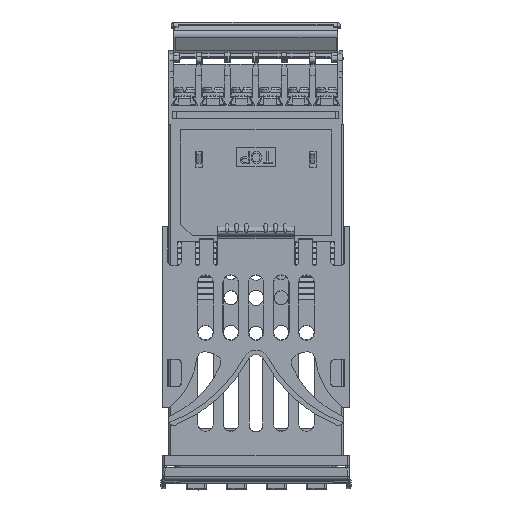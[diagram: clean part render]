
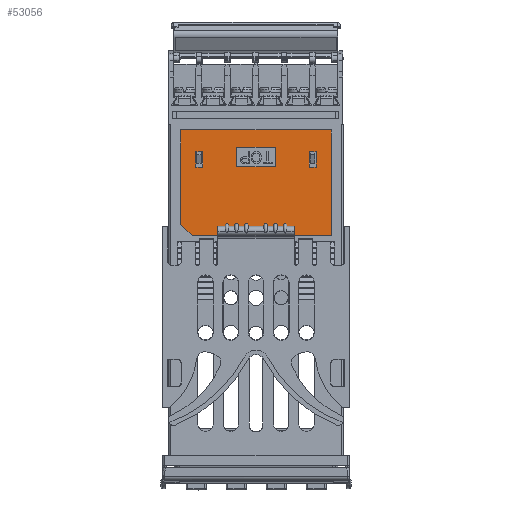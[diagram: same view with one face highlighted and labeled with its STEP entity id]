
A CAD part, front view. The second image highlights one B-rep face of the part: STEP entity #53056.
In plain terms, the highlighted planar face has unit normal (0, -1, 0).
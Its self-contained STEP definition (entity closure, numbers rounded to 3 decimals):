
#13243=DIRECTION('',(0.,0.,-1.));
#13244=VECTOR('',#13243,4.);
#13245=CARTESIAN_POINT('',(40.03,2.179,-26.004));
#13246=LINE('',#13245,#13244);
#13251=DIRECTION('',(-0.707,0.,0.707));
#13252=VECTOR('',#13251,4.243);
#13253=CARTESIAN_POINT('',(8.075,2.179,-47.684));
#13254=LINE('',#13253,#13252);
#13255=DIRECTION('',(0.,0.,1.));
#13256=VECTOR('',#13255,4.);
#13257=CARTESIAN_POINT('',(10.75,2.179,-30.004));
#13258=LINE('',#13257,#13256);
#13263=DIRECTION('',(1.,0.,0.));
#13264=VECTOR('',#13263,35.85);
#13265=CARTESIAN_POINT('',(8.075,2.179,-47.684));
#13266=LINE('',#13265,#13264);
#13279=DIRECTION('',(0.,0.,1.));
#13280=VECTOR('',#13279,27.25);
#13281=CARTESIAN_POINT('',(43.925,2.179,-47.684));
#13282=LINE('',#13281,#13280);
#13291=DIRECTION('',(-1.,0.,0.));
#13292=VECTOR('',#13291,38.85);
#13293=CARTESIAN_POINT('',(43.925,2.179,-20.434));
#13294=LINE('',#13293,#13292);
#13307=DIRECTION('',(0.,0.,-1.));
#13308=VECTOR('',#13307,24.25);
#13309=CARTESIAN_POINT('',(5.075,2.179,-20.434));
#13310=LINE('',#13309,#13308);
#13311=DIRECTION('',(1.,0.,0.));
#13312=VECTOR('',#13311,1.78);
#13313=CARTESIAN_POINT('',(38.25,2.179,-26.004));
#13314=LINE('',#13313,#13312);
#13327=DIRECTION('',(0.,0.,1.));
#13328=VECTOR('',#13327,4.);
#13329=CARTESIAN_POINT('',(38.25,2.179,-30.004));
#13330=LINE('',#13329,#13328);
#13339=DIRECTION('',(-1.,0.,0.));
#13340=VECTOR('',#13339,1.78);
#13341=CARTESIAN_POINT('',(40.03,2.179,-30.004));
#13342=LINE('',#13341,#13340);
#13351=DIRECTION('',(-1.,0.,0.));
#13352=VECTOR('',#13351,10.);
#13353=CARTESIAN_POINT('',(29.5,2.179,-29.934));
#13354=LINE('',#13353,#13352);
#13355=DIRECTION('',(0.,0.,1.));
#13356=VECTOR('',#13355,5.);
#13357=CARTESIAN_POINT('',(19.5,2.179,-29.934));
#13358=LINE('',#13357,#13356);
#13363=DIRECTION('',(1.,0.,0.));
#13364=VECTOR('',#13363,10.);
#13365=CARTESIAN_POINT('',(19.5,2.179,-24.934));
#13366=LINE('',#13365,#13364);
#13371=DIRECTION('',(0.,0.,-1.));
#13372=VECTOR('',#13371,5.);
#13373=CARTESIAN_POINT('',(29.5,2.179,-24.934));
#13374=LINE('',#13373,#13372);
#14315=DIRECTION('',(-1.,0.,0.));
#14316=VECTOR('',#14315,1.78);
#14317=CARTESIAN_POINT('',(10.75,2.179,-30.004));
#14318=LINE('',#14317,#14316);
#14331=DIRECTION('',(0.,0.,1.));
#14332=VECTOR('',#14331,4.);
#14333=CARTESIAN_POINT('',(8.97,2.179,-30.004));
#14334=LINE('',#14333,#14332);
#14343=DIRECTION('',(1.,0.,0.));
#14344=VECTOR('',#14343,1.78);
#14345=CARTESIAN_POINT('',(8.97,2.179,-26.004));
#14346=LINE('',#14345,#14344);
#29342=CARTESIAN_POINT('',(10.75,2.179,-30.004));
#29343=CARTESIAN_POINT('',(10.75,2.179,-26.004));
#29344=VERTEX_POINT('',#29342);
#29345=VERTEX_POINT('',#29343);
#29352=CARTESIAN_POINT('',(29.5,2.179,-29.934));
#29353=CARTESIAN_POINT('',(19.5,2.179,-29.934));
#29354=VERTEX_POINT('',#29352);
#29355=VERTEX_POINT('',#29353);
#29356=CARTESIAN_POINT('',(29.5,2.179,-24.934));
#29357=VERTEX_POINT('',#29356);
#29358=CARTESIAN_POINT('',(19.5,2.179,-24.934));
#29359=VERTEX_POINT('',#29358);
#29360=CARTESIAN_POINT('',(8.075,2.179,-47.684));
#29361=CARTESIAN_POINT('',(5.075,2.179,-44.684));
#29362=VERTEX_POINT('',#29360);
#29363=VERTEX_POINT('',#29361);
#29364=CARTESIAN_POINT('',(5.075,2.179,-20.434));
#29365=VERTEX_POINT('',#29364);
#29366=CARTESIAN_POINT('',(43.925,2.179,-20.434));
#29367=VERTEX_POINT('',#29366);
#29368=CARTESIAN_POINT('',(43.925,2.179,-47.684));
#29369=VERTEX_POINT('',#29368);
#29370=CARTESIAN_POINT('',(8.97,2.179,-26.004));
#29371=VERTEX_POINT('',#29370);
#29376=CARTESIAN_POINT('',(8.97,2.179,-30.004));
#29377=VERTEX_POINT('',#29376);
#29414=CARTESIAN_POINT('',(40.03,2.179,-26.004));
#29415=CARTESIAN_POINT('',(40.03,2.179,-30.004));
#29416=VERTEX_POINT('',#29414);
#29417=VERTEX_POINT('',#29415);
#29424=CARTESIAN_POINT('',(38.25,2.179,-30.004));
#29425=VERTEX_POINT('',#29424);
#29430=CARTESIAN_POINT('',(38.25,2.179,-26.004));
#29431=VERTEX_POINT('',#29430);
#53010=CARTESIAN_POINT('',(24.5,2.179,-34.059));
#53011=DIRECTION('',(0.,1.,0.));
#53012=DIRECTION('',(1.,0.,0.));
#53013=AXIS2_PLACEMENT_3D('',#53010,#53011,#53012);
#53014=PLANE('',#53013);
#53016=ORIENTED_EDGE('',*,*,#53015,.T.);
#53018=ORIENTED_EDGE('',*,*,#53017,.F.);
#53020=ORIENTED_EDGE('',*,*,#53019,.F.);
#53022=ORIENTED_EDGE('',*,*,#53021,.F.);
#53024=ORIENTED_EDGE('',*,*,#53023,.F.);
#53025=EDGE_LOOP('',(#53016,#53018,#53020,#53022,#53024));
#53026=FACE_OUTER_BOUND('',#53025,.F.);
#53027=ORIENTED_EDGE('',*,*,#53000,.F.);
#53029=ORIENTED_EDGE('',*,*,#53028,.F.);
#53031=ORIENTED_EDGE('',*,*,#53030,.F.);
#53033=ORIENTED_EDGE('',*,*,#53032,.F.);
#53034=EDGE_LOOP('',(#53027,#53029,#53031,#53033));
#53035=FACE_BOUND('',#53034,.F.);
#53037=ORIENTED_EDGE('',*,*,#53036,.F.);
#53039=ORIENTED_EDGE('',*,*,#53038,.F.);
#53041=ORIENTED_EDGE('',*,*,#53040,.F.);
#53043=ORIENTED_EDGE('',*,*,#53042,.F.);
#53044=EDGE_LOOP('',(#53037,#53039,#53041,#53043));
#53045=FACE_BOUND('',#53044,.F.);
#53047=ORIENTED_EDGE('',*,*,#53046,.T.);
#53049=ORIENTED_EDGE('',*,*,#53048,.F.);
#53051=ORIENTED_EDGE('',*,*,#53050,.F.);
#53053=ORIENTED_EDGE('',*,*,#53052,.F.);
#53054=EDGE_LOOP('',(#53047,#53049,#53051,#53053));
#53055=FACE_BOUND('',#53054,.F.);
#53000=EDGE_CURVE('',#29416,#29417,#13246,.T.);
#53015=EDGE_CURVE('',#29362,#29363,#13254,.T.);
#53017=EDGE_CURVE('',#29365,#29363,#13310,.T.);
#53019=EDGE_CURVE('',#29367,#29365,#13294,.T.);
#53021=EDGE_CURVE('',#29369,#29367,#13282,.T.);
#53023=EDGE_CURVE('',#29362,#29369,#13266,.T.);
#53028=EDGE_CURVE('',#29431,#29416,#13314,.T.);
#53030=EDGE_CURVE('',#29425,#29431,#13330,.T.);
#53032=EDGE_CURVE('',#29417,#29425,#13342,.T.);
#53036=EDGE_CURVE('',#29354,#29355,#13354,.T.);
#53038=EDGE_CURVE('',#29357,#29354,#13374,.T.);
#53040=EDGE_CURVE('',#29359,#29357,#13366,.T.);
#53042=EDGE_CURVE('',#29355,#29359,#13358,.T.);
#53046=EDGE_CURVE('',#29344,#29345,#13258,.T.);
#53048=EDGE_CURVE('',#29371,#29345,#14346,.T.);
#53050=EDGE_CURVE('',#29377,#29371,#14334,.T.);
#53052=EDGE_CURVE('',#29344,#29377,#14318,.T.);
#53056=ADVANCED_FACE('',(#53026,#53035,#53045,#53055),#53014,.F.);
